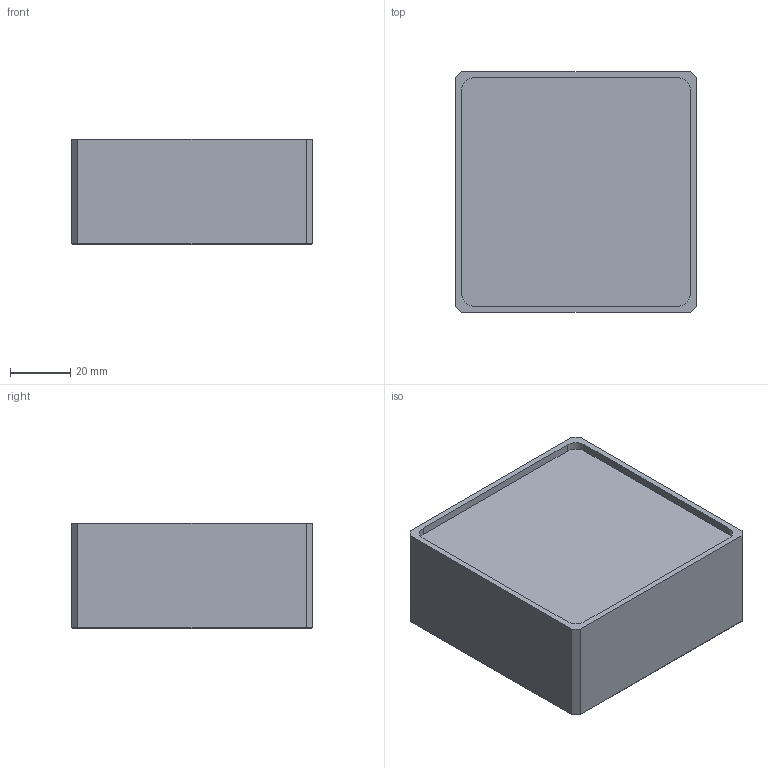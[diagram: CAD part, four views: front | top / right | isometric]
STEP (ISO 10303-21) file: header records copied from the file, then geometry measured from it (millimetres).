
FILE_DESCRIPTION(/* description */ (''),/* implementation_level */ '2;1');
FILE_NAME(/* name */ 'LA-2238-0182#-D.stp',/* time_stamp */ '2012-09-07T09:31:18+01:00',/* author */ (''),/* organization */ (''),/* preprocessor_version */ 'ST-DEVELOPER v11',/* originating_system */ 'SIEMENS PLM Software NX 7.5',/* authorisation */ '');
FILE_SCHEMA (('AUTOMOTIVE_DESIGN { 1 0 10303 214 1 1 1 1 }'));
Length unit declared in the file: millimetre
Products named in the file (1): rt13371Ayuxl
Bounding box: 80 x 80 x 35 mm (x, y, z)
Volume: 208731.9 mm3; surface area: 24545.4 mm2
Topology: 1 solids, 1 shells, 27 faces, 64 edges, 40 vertices
Faces by surface type: plane 23, cylinder 4
Entity records: 976 total; most frequent: CARTESIAN_POINT 132, ORIENTED_EDGE 128, DIRECTION 128, EDGE_CURVE 64, LINE 56, VECTOR 56, VERTEX_POINT 40, AXIS2_PLACEMENT_3D 36
